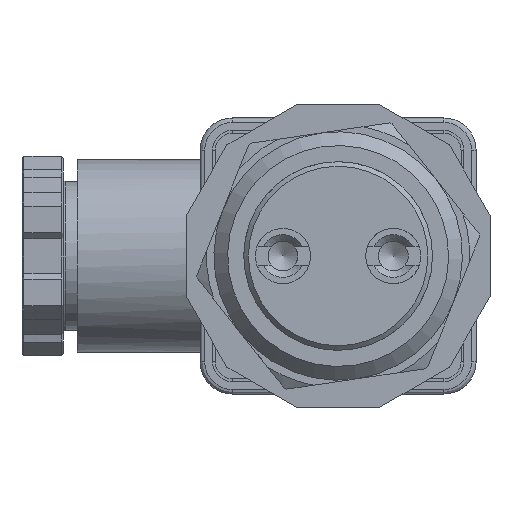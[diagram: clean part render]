
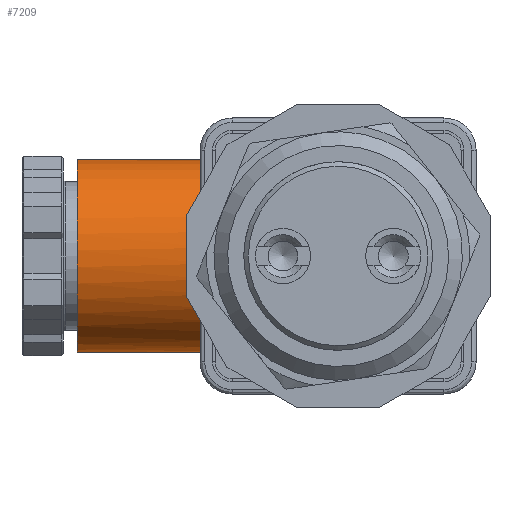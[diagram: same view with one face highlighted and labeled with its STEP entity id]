
A CAD part, front view. The second image highlights one B-rep face of the part: STEP entity #7209.
In plain terms, the highlighted cylindrical face has radius 10.46 mm (diameter 20.92 mm), a full revolution.
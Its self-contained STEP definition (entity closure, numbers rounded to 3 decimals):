
#7209=ADVANCED_FACE('',(#43171,#43173),#43175,.T.);
#43171=FACE_BOUND('',#43172,.T.);
#43172=EDGE_LOOP('',(#110884,#110885,#110886,#110887,#110888,#110889));
#43173=FACE_OUTER_BOUND('',#43174,.T.);
#43174=EDGE_LOOP('',(#110890));
#43175=CYLINDRICAL_SURFACE('',#43176,10.46);
#43176=AXIS2_PLACEMENT_3D('',#43177,#43178,#43179);
#43177=CARTESIAN_POINT('',(-28.35,65.63,0.));
#43178=DIRECTION('',(1.,0.,0.));
#43179=DIRECTION('',(0.,0.,1.));
#110884=ORIENTED_EDGE('',*,*,#130998,.T.);
#110885=ORIENTED_EDGE('',*,*,#130997,.T.);
#110886=ORIENTED_EDGE('',*,*,#130938,.T.);
#110887=ORIENTED_EDGE('',*,*,#130937,.T.);
#110888=ORIENTED_EDGE('',*,*,#130936,.T.);
#110889=ORIENTED_EDGE('',*,*,#131000,.T.);
#110890=ORIENTED_EDGE('',*,*,#131002,.F.);
#130936=EDGE_CURVE('',#143108,#143106,#143109,.T.);
#130937=EDGE_CURVE('',#143110,#143108,#143111,.T.);
#130938=EDGE_CURVE('',#143112,#143110,#143113,.T.);
#130997=EDGE_CURVE('',#143199,#143112,#143201,.T.);
#130998=EDGE_CURVE('',#143202,#143199,#143203,.T.);
#131000=EDGE_CURVE('',#143106,#143202,#143205,.T.);
#131002=EDGE_CURVE('',#143208,#143208,#143209,.T.);
#143106=VERTEX_POINT('',#166796);
#143108=VERTEX_POINT('',#166801);
#143109=CIRCLE('',#166802,10.46);
#143110=VERTEX_POINT('',#166806);
#143111=CIRCLE('',#166807,10.46);
#143112=VERTEX_POINT('',#166811);
#143113=CIRCLE('',#166812,10.46);
#143199=VERTEX_POINT('',#167028);
#143201=B_SPLINE_CURVE_WITH_KNOTS('',3,
(#167033,#167034,#167035,#167036,#167037,#167038,#167039),
.UNSPECIFIED.,.F.,.F.,
(4,1,1,1,4),
(0.,0.281,0.528,0.755,1.),
.UNSPECIFIED.);
#143202=VERTEX_POINT('',#167040);
#143203=B_SPLINE_CURVE_WITH_KNOTS('',3,
(#167041,#167042,#167043,#167044,#167045,#167046,#167047,#167048,#167049,#167050,
#167051,#167052,#167053,#167054,#167055,#167056,#167057,#167058,#167059,#167060,
#167061,#167062,#167063,#167064,#167065,#167066,#167067,#167068),
.UNSPECIFIED.,.F.,.F.,
(4,1,1,1,1,1,1,1,1,1,1,1,1,1,1,1,1,1,1,1,1,1,1,1,1,4),
(0.,0.062,0.11,0.147,0.184,0.223,
0.261,0.295,0.334,0.374,0.413,
0.461,0.51,0.56,0.597,0.644,
0.69,0.734,0.766,0.802,0.841,
0.879,0.914,0.949,0.978,1.),
.UNSPECIFIED.);
#143205=B_SPLINE_CURVE_WITH_KNOTS('',3,
(#167073,#167074,#167075,#167076,#167077,#167078,#167079,#167080,#167081,#167082),
.UNSPECIFIED.,.F.,.F.,
(4,1,1,1,1,1,1,4),
(0.,0.192,0.361,0.508,0.646,0.797,
0.92,1.),
.UNSPECIFIED.);
#143208=VERTEX_POINT('',#167088);
#143209=CIRCLE('',#167089,10.46);
#166796=CARTESIAN_POINT('',(-13.85,74.716,5.183));
#166801=CARTESIAN_POINT('',(-13.85,56.893,5.751));
#166802=AXIS2_PLACEMENT_3D('',#166803,#166804,#166805);
#166803=CARTESIAN_POINT('',(-13.85,65.63,0.));
#166804=DIRECTION('',(-1.,0.,0.));
#166805=DIRECTION('',(0.,-0.835,0.55));
#166806=CARTESIAN_POINT('',(-13.85,65.63,-10.46));
#166807=AXIS2_PLACEMENT_3D('',#166808,#166809,#166810);
#166808=CARTESIAN_POINT('',(-13.85,65.63,0.));
#166809=DIRECTION('',(-1.,0.,0.));
#166810=DIRECTION('',(0.,0.,-1.));
#166811=CARTESIAN_POINT('',(-13.85,74.716,-5.183));
#166812=AXIS2_PLACEMENT_3D('',#166813,#166814,#166815);
#166813=CARTESIAN_POINT('',(-13.85,65.63,0.));
#166814=DIRECTION('',(-1.,0.,0.));
#166815=DIRECTION('',(0.,0.869,-0.495));
#167028=CARTESIAN_POINT('',(-13.786,75.238,-4.136));
#167033=CARTESIAN_POINT('',(-13.786,75.238,-4.136));
#167034=CARTESIAN_POINT('',(-13.796,75.194,-4.236));
#167035=CARTESIAN_POINT('',(-13.815,75.11,-4.424));
#167036=CARTESIAN_POINT('',(-13.835,74.982,-4.689));
#167037=CARTESIAN_POINT('',(-13.845,74.852,-4.938));
#167038=CARTESIAN_POINT('',(-13.848,74.763,-5.1));
#167039=CARTESIAN_POINT('',(-13.85,74.716,-5.183));
#167040=CARTESIAN_POINT('',(-13.786,75.238,4.136));
#167041=CARTESIAN_POINT('',(-13.786,75.238,4.136));
#167042=CARTESIAN_POINT('',(-13.771,75.307,3.975));
#167043=CARTESIAN_POINT('',(-13.744,75.424,3.684));
#167044=CARTESIAN_POINT('',(-13.713,75.561,3.29));
#167045=CARTESIAN_POINT('',(-13.691,75.664,2.96));
#167046=CARTESIAN_POINT('',(-13.674,75.749,2.654));
#167047=CARTESIAN_POINT('',(-13.66,75.826,2.345));
#167048=CARTESIAN_POINT('',(-13.649,75.891,2.038));
#167049=CARTESIAN_POINT('',(-13.639,75.948,1.729));
#167050=CARTESIAN_POINT('',(-13.63,75.996,1.41));
#167051=CARTESIAN_POINT('',(-13.623,76.036,1.078));
#167052=CARTESIAN_POINT('',(-13.618,76.068,0.718));
#167053=CARTESIAN_POINT('',(-13.614,76.087,0.333));
#167054=CARTESIAN_POINT('',(-13.613,76.092,-0.084));
#167055=CARTESIAN_POINT('',(-13.615,76.082,-0.47));
#167056=CARTESIAN_POINT('',(-13.619,76.058,-0.849));
#167057=CARTESIAN_POINT('',(-13.626,76.022,-1.213));
#167058=CARTESIAN_POINT('',(-13.635,75.97,-1.597));
#167059=CARTESIAN_POINT('',(-13.645,75.911,-1.937));
#167060=CARTESIAN_POINT('',(-13.657,75.847,-2.249));
#167061=CARTESIAN_POINT('',(-13.67,75.777,-2.545));
#167062=CARTESIAN_POINT('',(-13.685,75.694,-2.857));
#167063=CARTESIAN_POINT('',(-13.703,75.602,-3.161));
#167064=CARTESIAN_POINT('',(-13.724,75.505,-3.454));
#167065=CARTESIAN_POINT('',(-13.747,75.408,-3.718));
#167066=CARTESIAN_POINT('',(-13.768,75.318,-3.946));
#167067=CARTESIAN_POINT('',(-13.78,75.262,-4.08));
#167068=CARTESIAN_POINT('',(-13.786,75.238,-4.136));
#167073=CARTESIAN_POINT('',(-13.85,74.716,5.183));
#167074=CARTESIAN_POINT('',(-13.849,74.753,5.118));
#167075=CARTESIAN_POINT('',(-13.846,74.821,4.994));
#167076=CARTESIAN_POINT('',(-13.841,74.914,4.819));
#167077=CARTESIAN_POINT('',(-13.832,74.995,4.661));
#167078=CARTESIAN_POINT('',(-13.821,75.069,4.508));
#167079=CARTESIAN_POINT('',(-13.808,75.137,4.363));
#167080=CARTESIAN_POINT('',(-13.796,75.194,4.237));
#167081=CARTESIAN_POINT('',(-13.788,75.225,4.165));
#167082=CARTESIAN_POINT('',(-13.786,75.238,4.136));
#167088=CARTESIAN_POINT('',(-28.35,56.893,5.751));
#167089=AXIS2_PLACEMENT_3D('',#167090,#167091,#167092);
#167090=CARTESIAN_POINT('',(-28.35,65.63,0.));
#167091=DIRECTION('',(-1.,0.,0.));
#167092=DIRECTION('',(0.,0.,-1.));
